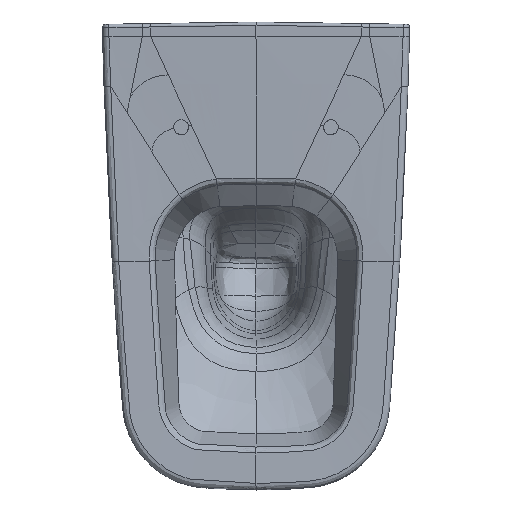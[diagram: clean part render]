
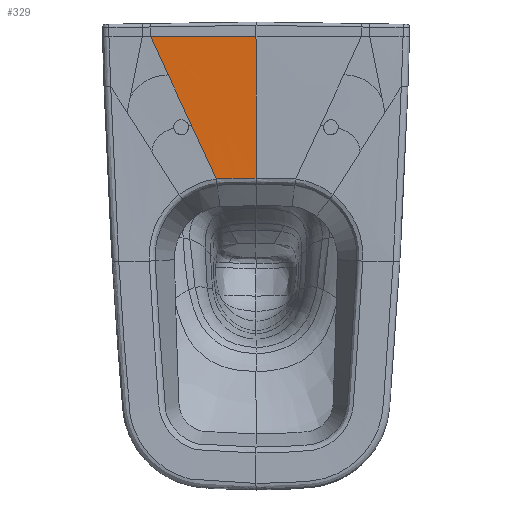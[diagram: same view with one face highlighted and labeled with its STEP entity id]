
A CAD part, top view. The second image highlights one B-rep face of the part: STEP entity #329.
In plain terms, the highlighted free-form (B-spline) face has degree [3, 3] with [14, 4] control points.
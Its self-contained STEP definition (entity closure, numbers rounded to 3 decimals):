
#178=B_SPLINE_SURFACE_WITH_KNOTS('',3,3,((#19342,#19343,#19344,#19345),
(#19346,#19347,#19348,#19349),(#19350,#19351,#19352,#19353),(#19354,#19355,
#19356,#19357),(#19358,#19359,#19360,#19361),(#19362,#19363,#19364,#19365),
(#19366,#19367,#19368,#19369),(#19370,#19371,#19372,#19373),(#19374,#19375,
#19376,#19377),(#19378,#19379,#19380,#19381),(#19382,#19383,#19384,#19385),
(#19386,#19387,#19388,#19389),(#19390,#19391,#19392,#19393),(#19394,#19395,
#19396,#19397)),.UNSPECIFIED.,.F.,.F.,.F.,(4,1,1,1,1,1,1,1,1,1,1,4),(4,
4),(0.,0.006,0.116,0.227,0.33,
0.337,0.351,0.365,0.392,
0.448,0.558,1.),(0.,1.),.UNSPECIFIED.);
#329=ADVANCED_FACE('',(#503),#178,.T.);
#503=FACE_OUTER_BOUND('',#670,.T.);
#670=EDGE_LOOP('',(#1197,#1198,#1199,#1200,#1201,#1202,#1203));
#1197=ORIENTED_EDGE('',*,*,#2062,.F.);
#1198=ORIENTED_EDGE('',*,*,#2063,.F.);
#1199=ORIENTED_EDGE('',*,*,#2064,.F.);
#1200=ORIENTED_EDGE('',*,*,#2065,.F.);
#1201=ORIENTED_EDGE('',*,*,#2034,.T.);
#1202=ORIENTED_EDGE('',*,*,#2037,.T.);
#1203=ORIENTED_EDGE('',*,*,#2066,.F.);
#1721=VERTEX_POINT('',#18755);
#1722=VERTEX_POINT('',#18760);
#1723=VERTEX_POINT('',#18779);
#1739=VERTEX_POINT('',#19321);
#1740=VERTEX_POINT('',#19322);
#1741=VERTEX_POINT('',#19327);
#1742=VERTEX_POINT('',#19333);
#2034=EDGE_CURVE('',#1722,#1721,#2426,.T.);
#2037=EDGE_CURVE('',#1721,#1723,#2427,.T.);
#2062=EDGE_CURVE('',#1739,#1740,#2451,.T.);
#2063=EDGE_CURVE('',#1741,#1739,#2452,.T.);
#2064=EDGE_CURVE('',#1742,#1741,#2453,.T.);
#2065=EDGE_CURVE('',#1722,#1742,#2454,.T.);
#2066=EDGE_CURVE('',#1740,#1723,#2455,.T.);
#2426=B_SPLINE_CURVE_WITH_KNOTS('',3,(#18756,#18757,#18758,#18759),
 .UNSPECIFIED.,.F.,.F.,(4,4),(0.,1.),.UNSPECIFIED.);
#2427=B_SPLINE_CURVE_WITH_KNOTS('',3,(#18780,#18781,#18782,#18783,#18784,
#18785,#18786,#18787),.UNSPECIFIED.,.F.,.F.,(4,2,2,4),(0.,0.25,0.5,1.),
 .UNSPECIFIED.);
#2451=B_SPLINE_CURVE_WITH_KNOTS('',3,(#19314,#19315,#19316,#19317,#19318,
#19319,#19320),.UNSPECIFIED.,.F.,.F.,(4,1,1,1,4),(0.,0.25,0.5,
0.75,1.),.UNSPECIFIED.);
#2452=B_SPLINE_CURVE_WITH_KNOTS('',3,(#19323,#19324,#19325,#19326),
 .UNSPECIFIED.,.F.,.F.,(4,4),(0.,1.),.UNSPECIFIED.);
#2453=B_SPLINE_CURVE_WITH_KNOTS('',3,(#19328,#19329,#19330,#19331,#19332),
 .UNSPECIFIED.,.F.,.F.,(4,1,4),(0.,0.468,1.),.UNSPECIFIED.);
#2454=B_SPLINE_CURVE_WITH_KNOTS('',3,(#19334,#19335,#19336,#19337),
 .UNSPECIFIED.,.F.,.F.,(4,4),(0.,1.),.UNSPECIFIED.);
#2455=B_SPLINE_CURVE_WITH_KNOTS('',3,(#19338,#19339,#19340,#19341),
 .UNSPECIFIED.,.F.,.F.,(4,4),(0.,1.),.UNSPECIFIED.);
#18755=CARTESIAN_POINT('',(-47.728,-185.944,-1.055));
#18756=CARTESIAN_POINT('',(-47.813,-185.956,-1.055));
#18757=CARTESIAN_POINT('',(-47.785,-185.952,-1.055));
#18758=CARTESIAN_POINT('',(-47.756,-185.948,-1.055));
#18759=CARTESIAN_POINT('',(-47.728,-185.944,-1.055));
#18760=CARTESIAN_POINT('',(-47.813,-185.955,-1.055));
#18779=CARTESIAN_POINT('',(0.,-185.137,-1.055));
#18780=CARTESIAN_POINT('',(-47.728,-185.944,-1.055));
#18781=CARTESIAN_POINT('',(-43.782,-185.417,-1.055));
#18782=CARTESIAN_POINT('',(-39.802,-185.141,-1.055));
#18783=CARTESIAN_POINT('',(-31.84,-185.085,-1.055));
#18784=CARTESIAN_POINT('',(-27.86,-185.116,-1.055));
#18785=CARTESIAN_POINT('',(-15.918,-185.125,-1.055));
#18786=CARTESIAN_POINT('',(-7.959,-185.131,-1.055));
#18787=CARTESIAN_POINT('',(0.,-185.137,-1.055));
#19314=CARTESIAN_POINT('',(-126.641,-15.,1.233));
#19315=CARTESIAN_POINT('',(-116.089,-15.,1.466));
#19316=CARTESIAN_POINT('',(-94.985,-14.998,1.875));
#19317=CARTESIAN_POINT('',(-63.325,-14.999,2.313));
#19318=CARTESIAN_POINT('',(-31.663,-15.,2.577));
#19319=CARTESIAN_POINT('',(-10.554,-15.,2.636));
#19320=CARTESIAN_POINT('',(0.,-15.,2.636));
#19321=CARTESIAN_POINT('',(-126.641,-15.,1.233));
#19322=CARTESIAN_POINT('',(0.,-15.,2.636));
#19323=CARTESIAN_POINT('',(-105.54,-60.763,0.701));
#19324=CARTESIAN_POINT('',(-112.574,-45.509,0.887));
#19325=CARTESIAN_POINT('',(-119.608,-30.254,1.065));
#19326=CARTESIAN_POINT('',(-126.641,-15.,1.233));
#19327=CARTESIAN_POINT('',(-105.54,-60.763,0.701));
#19328=CARTESIAN_POINT('',(-77.523,-121.526,-0.088));
#19329=CARTESIAN_POINT('',(-81.89,-112.055,0.043));
#19330=CARTESIAN_POINT('',(-91.229,-91.801,0.315));
#19331=CARTESIAN_POINT('',(-100.568,-71.547,0.57));
#19332=CARTESIAN_POINT('',(-105.54,-60.763,0.701));
#19333=CARTESIAN_POINT('',(-77.523,-121.526,-0.088));
#19334=CARTESIAN_POINT('',(-47.813,-185.955,-1.055));
#19335=CARTESIAN_POINT('',(-51.277,-178.443,-0.933));
#19336=CARTESIAN_POINT('',(-61.181,-156.967,-0.579));
#19337=CARTESIAN_POINT('',(-77.523,-121.526,-0.088));
#19338=CARTESIAN_POINT('',(0.,-15.,2.636));
#19339=CARTESIAN_POINT('',(0.,-71.712,1.406));
#19340=CARTESIAN_POINT('',(0.,-128.424,0.175));
#19341=CARTESIAN_POINT('',(0.,-185.137,-1.055));
#19342=CARTESIAN_POINT('',(-53.072,-186.86,-1.056));
#19343=CARTESIAN_POINT('',(-77.589,-129.572,-0.206));
#19344=CARTESIAN_POINT('',(-102.117,-72.285,0.558));
#19345=CARTESIAN_POINT('',(-126.641,-15.,1.233));
#19346=CARTESIAN_POINT('',(-52.971,-186.84,-1.056));
#19347=CARTESIAN_POINT('',(-77.44,-129.558,-0.204));
#19348=CARTESIAN_POINT('',(-101.919,-72.278,0.561));
#19349=CARTESIAN_POINT('',(-126.396,-14.998,1.239));
#19350=CARTESIAN_POINT('',(-50.947,-186.451,-1.056));
#19351=CARTESIAN_POINT('',(-74.456,-129.288,-0.174));
#19352=CARTESIAN_POINT('',(-97.975,-72.127,0.627));
#19353=CARTESIAN_POINT('',(-121.491,-14.967,1.347));
#19354=CARTESIAN_POINT('',(-46.975,-185.822,-1.056));
#19355=CARTESIAN_POINT('',(-68.62,-128.852,-0.119));
#19356=CARTESIAN_POINT('',(-90.273,-71.884,0.749));
#19357=CARTESIAN_POINT('',(-111.924,-14.917,1.547));
#19358=CARTESIAN_POINT('',(-41.246,-185.28,-1.056));
#19359=CARTESIAN_POINT('',(-60.235,-128.476,-0.05));
#19360=CARTESIAN_POINT('',(-79.233,-71.674,0.902));
#19361=CARTESIAN_POINT('',(-98.228,-14.873,1.799));
#19362=CARTESIAN_POINT('',(-37.33,-185.145,-1.056));
#19363=CARTESIAN_POINT('',(-54.516,-128.383,-0.009));
#19364=CARTESIAN_POINT('',(-71.71,-71.622,0.993));
#19365=CARTESIAN_POINT('',(-88.902,-14.862,1.948));
#19366=CARTESIAN_POINT('',(-35.127,-185.136,-1.056));
#19367=CARTESIAN_POINT('',(-51.299,-128.377,0.012));
#19368=CARTESIAN_POINT('',(-67.478,-71.619,1.039));
#19369=CARTESIAN_POINT('',(-83.656,-14.862,2.025));
#19370=CARTESIAN_POINT('',(-34.515,-185.136,-1.056));
#19371=CARTESIAN_POINT('',(-50.406,-128.377,0.018));
#19372=CARTESIAN_POINT('',(-66.303,-71.619,1.052));
#19373=CARTESIAN_POINT('',(-82.198,-14.862,2.047));
#19374=CARTESIAN_POINT('',(-33.536,-185.137,-1.056));
#19375=CARTESIAN_POINT('',(-48.976,-128.377,0.027));
#19376=CARTESIAN_POINT('',(-64.422,-71.619,1.072));
#19377=CARTESIAN_POINT('',(-79.867,-14.862,2.08));
#19378=CARTESIAN_POINT('',(-31.822,-185.136,-1.056));
#19379=CARTESIAN_POINT('',(-46.473,-128.377,0.042));
#19380=CARTESIAN_POINT('',(-61.13,-71.619,1.106));
#19381=CARTESIAN_POINT('',(-75.786,-14.862,2.136));
#19382=CARTESIAN_POINT('',(-28.395,-185.137,-1.056));
#19383=CARTESIAN_POINT('',(-41.469,-128.377,0.071));
#19384=CARTESIAN_POINT('',(-54.547,-71.619,1.17));
#19385=CARTESIAN_POINT('',(-67.625,-14.862,2.241));
#19386=CARTESIAN_POINT('',(-17.625,-185.137,-1.055));
#19387=CARTESIAN_POINT('',(-25.74,-128.377,0.146));
#19388=CARTESIAN_POINT('',(-33.858,-71.619,1.339));
#19389=CARTESIAN_POINT('',(-41.975,-14.862,2.524));
#19390=CARTESIAN_POINT('',(-7.833,-185.137,-1.055));
#19391=CARTESIAN_POINT('',(-11.44,-128.378,0.176));
#19392=CARTESIAN_POINT('',(-15.048,-71.62,1.408));
#19393=CARTESIAN_POINT('',(-18.656,-14.862,2.639));
#19394=CARTESIAN_POINT('',(0.,-185.137,-1.055));
#19395=CARTESIAN_POINT('',(0.,-128.378,0.176));
#19396=CARTESIAN_POINT('',(0.,-71.62,1.408));
#19397=CARTESIAN_POINT('',(0.,-14.862,2.639));
